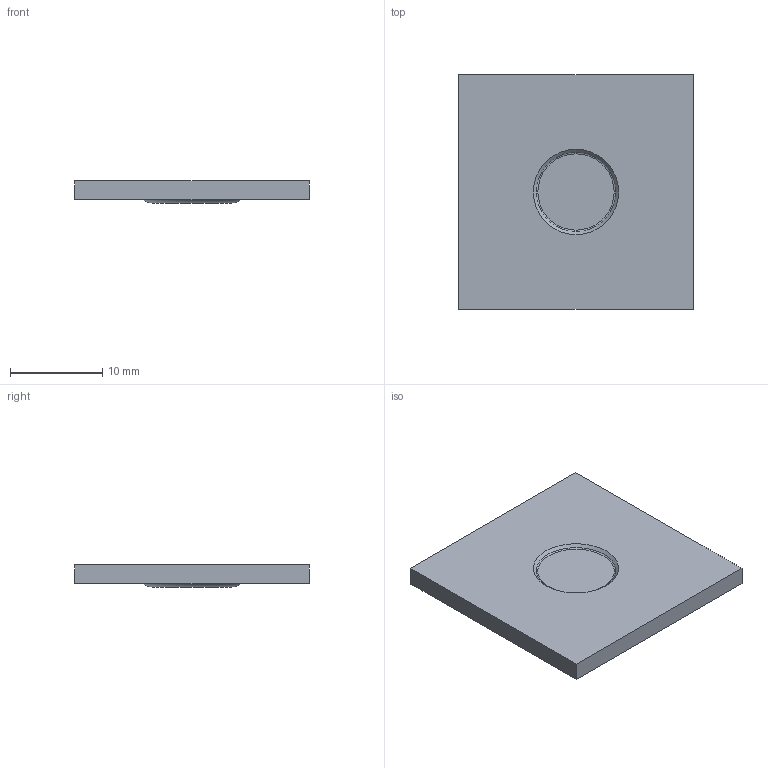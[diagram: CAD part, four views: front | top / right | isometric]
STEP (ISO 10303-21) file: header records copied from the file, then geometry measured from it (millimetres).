
FILE_DESCRIPTION((''),'1');
FILE_NAME('C:/Users/ericfrey.TRIAX/Documents/Desktop/DIMPLE FOR TEK 407-5836-00 REV 04 FORM DOWN.stp', '2014-08-19T22:37:33',(''), (''), 'KCM Version 1.1.1028.0', 'Kubotek KeyCreator', '');
FILE_SCHEMA(('AUTOMOTIVE_DESIGN'));
Length unit declared in the file: inch
Bounding box: 25.4 x 25.4 x 2.41 mm (x, y, z)
Volume: 1317.2 mm3; surface area: 1531.4 mm2
Topology: 1 solids, 1 shells, 12 faces, 22 edges, 14 vertices
Faces by surface type: plane 8, cone 2, torus 2
Entity records: 323 total; most frequent: DIRECTION 56, CARTESIAN_POINT 49, ORIENTED_EDGE 44, EDGE_CURVE 22, AXIS2_PLACEMENT_3D 21, VERTEX_POINT 14, VECTOR 14, LINE 14
